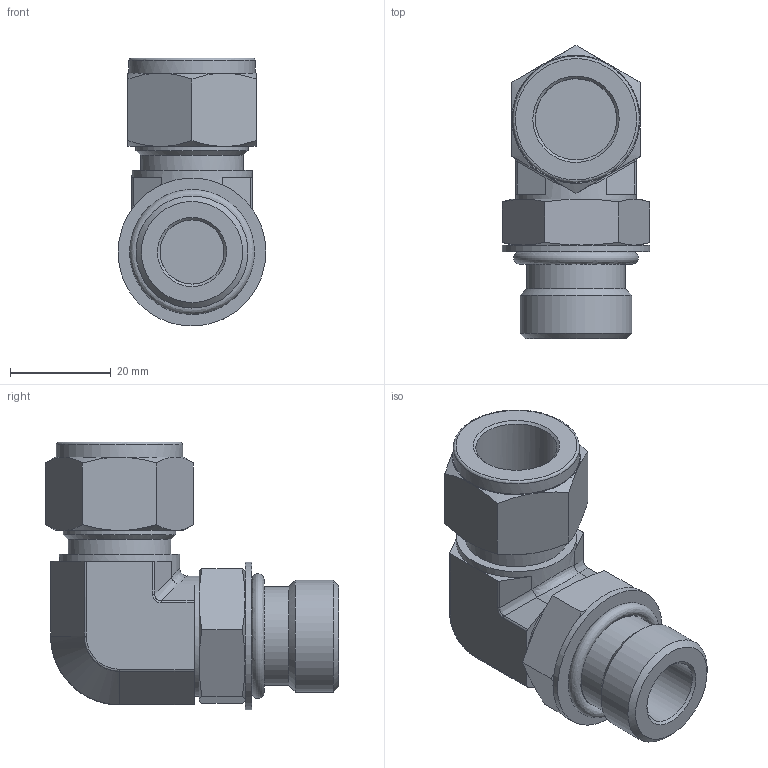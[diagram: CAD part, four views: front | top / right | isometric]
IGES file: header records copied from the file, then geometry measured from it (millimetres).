
Global section: file name: SPME-10-10U; native system: Autodesk Inventor 2016; preprocessor: unknown; author: DESIGNPC2; date: 20160115.114517; units: millimetre
Bounding box: 29.3 x 58.06 x 53.06 mm (x, y, z)
Volume: 30174.2 mm3; surface area: 13155.8 mm2
Topology: 4 solids, 4 shells, 127 faces, 301 edges, 190 vertices
Faces by surface type: bspline 127
